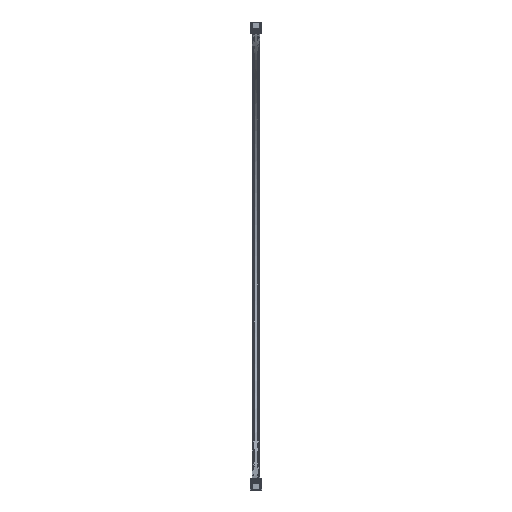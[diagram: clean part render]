
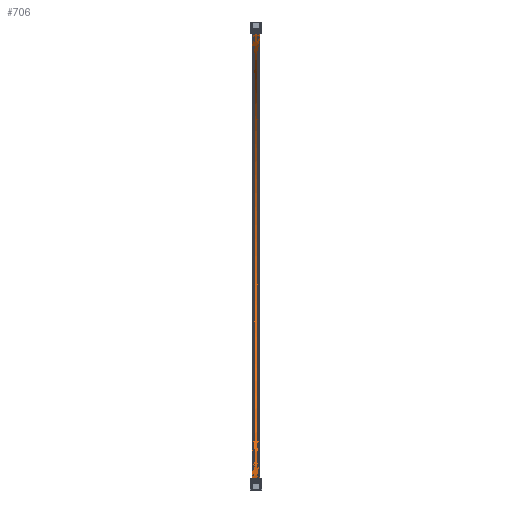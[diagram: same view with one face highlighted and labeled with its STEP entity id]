
A CAD part, front view. The second image highlights one B-rep face of the part: STEP entity #706.
In plain terms, the highlighted free-form (B-spline) face has degree [1, 2] with [2, 9] control points.
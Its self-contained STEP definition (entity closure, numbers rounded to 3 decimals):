
#706=ADVANCED_FACE('',(#1349),#9740,.T.);
#1349=FACE_OUTER_BOUND('',#2023,.T.);
#2023=EDGE_LOOP('',(#4747,#4748,#4749,#4750));
#4747=ORIENTED_EDGE('',*,*,#6426,.F.);
#4748=ORIENTED_EDGE('',*,*,#6535,.F.);
#4749=ORIENTED_EDGE('',*,*,#6536,.F.);
#4750=ORIENTED_EDGE('',*,*,#6534,.F.);
#6426=EDGE_CURVE('',#8990,#8988,#8058,.T.);
#6534=EDGE_CURVE('',#8988,#9053,#7362,.T.);
#6535=EDGE_CURVE('',#9054,#8990,#7363,.T.);
#6536=EDGE_CURVE('',#9053,#9054,#8120,.T.);
#7362=(
BOUNDED_CURVE()
B_SPLINE_CURVE(2,(#28778,#28779,#28780,#28781,#28782),.UNSPECIFIED.,.F.,
 .F.)
B_SPLINE_CURVE_WITH_KNOTS((3,2,3),(-2200.,-1100.,0.),.UNSPECIFIED.)
CURVE()
GEOMETRIC_REPRESENTATION_ITEM()
RATIONAL_B_SPLINE_CURVE((1.,0.707,1.,0.707,1.))
REPRESENTATION_ITEM('')
);
#7363=(
BOUNDED_CURVE()
B_SPLINE_CURVE(2,(#28783,#28784,#28785,#28786,#28787),.UNSPECIFIED.,.F.,
 .F.)
B_SPLINE_CURVE_WITH_KNOTS((3,2,3),(-2200.,-1100.,0.),.UNSPECIFIED.)
CURVE()
GEOMETRIC_REPRESENTATION_ITEM()
RATIONAL_B_SPLINE_CURVE((1.,0.707,1.,0.707,1.))
REPRESENTATION_ITEM('')
);
#8058=B_SPLINE_CURVE_WITH_KNOTS('',1,(#28462,#28463),.UNSPECIFIED.,.F.,
 .F.,(2,2),(0.,23.4),.UNSPECIFIED.);
#8120=B_SPLINE_CURVE_WITH_KNOTS('',1,(#28788,#28789),.UNSPECIFIED.,.F.,
 .F.,(2,2),(-23.4,0.),.UNSPECIFIED.);
#8988=VERTEX_POINT('',#28120);
#8990=VERTEX_POINT('',#28122);
#9053=VERTEX_POINT('',#28185);
#9054=VERTEX_POINT('',#28186);
#9740=(
BOUNDED_SURFACE()
B_SPLINE_SURFACE(1,2,((#26755,#26756,#26757,#26758,#26759,#26760,#26761,
#26762,#26763),(#26764,#26765,#26766,#26767,#26768,#26769,#26770,#26771,
#26772)),.UNSPECIFIED.,.F.,.F.,.F.)
B_SPLINE_SURFACE_WITH_KNOTS((2,2),(3,2,2,2,3),(0.,28.08),(0.,1100.,2200.,
3300.,4400.),.UNSPECIFIED.)
GEOMETRIC_REPRESENTATION_ITEM()
RATIONAL_B_SPLINE_SURFACE(((1.,0.707,1.,0.707,1.,
0.707,1.,0.707,1.),(1.,0.707,1.,0.707,
1.,0.707,1.,0.707,1.)))
REPRESENTATION_ITEM('')
SURFACE()
);
#26755=CARTESIAN_POINT('',(-14.04,-300.282,704.107));
#26756=CARTESIAN_POINT('',(-14.04,-300.282,3.825));
#26757=CARTESIAN_POINT('',(-14.04,400.,3.825));
#26758=CARTESIAN_POINT('',(-14.04,1100.282,3.825));
#26759=CARTESIAN_POINT('',(-14.04,1100.282,704.107));
#26760=CARTESIAN_POINT('',(-14.04,1100.282,1404.388));
#26761=CARTESIAN_POINT('',(-14.04,400.,1404.388));
#26762=CARTESIAN_POINT('',(-14.04,-300.282,1404.388));
#26763=CARTESIAN_POINT('',(-14.04,-300.282,704.107));
#26764=CARTESIAN_POINT('',(14.04,-300.282,704.107));
#26765=CARTESIAN_POINT('',(14.04,-300.282,3.825));
#26766=CARTESIAN_POINT('',(14.04,400.,3.825));
#26767=CARTESIAN_POINT('',(14.04,1100.282,3.825));
#26768=CARTESIAN_POINT('',(14.04,1100.282,704.107));
#26769=CARTESIAN_POINT('',(14.04,1100.282,1404.388));
#26770=CARTESIAN_POINT('',(14.04,400.,1404.388));
#26771=CARTESIAN_POINT('',(14.04,-300.282,1404.388));
#26772=CARTESIAN_POINT('',(14.04,-300.282,704.107));
#28120=CARTESIAN_POINT('',(11.7,400.,1404.388));
#28122=CARTESIAN_POINT('',(-11.7,400.,1404.388));
#28185=CARTESIAN_POINT('',(11.7,400.,3.825));
#28186=CARTESIAN_POINT('',(-11.7,400.,3.825));
#28462=CARTESIAN_POINT('',(-11.7,400.,1404.388));
#28463=CARTESIAN_POINT('',(11.7,400.,1404.388));
#28778=CARTESIAN_POINT('',(11.7,400.,1404.388));
#28779=CARTESIAN_POINT('',(11.7,1100.282,1404.388));
#28780=CARTESIAN_POINT('',(11.7,1100.282,704.107));
#28781=CARTESIAN_POINT('',(11.7,1100.282,3.825));
#28782=CARTESIAN_POINT('',(11.7,400.,3.825));
#28783=CARTESIAN_POINT('',(-11.7,400.,3.825));
#28784=CARTESIAN_POINT('',(-11.7,1100.282,3.825));
#28785=CARTESIAN_POINT('',(-11.7,1100.282,704.107));
#28786=CARTESIAN_POINT('',(-11.7,1100.282,1404.388));
#28787=CARTESIAN_POINT('',(-11.7,400.,1404.388));
#28788=CARTESIAN_POINT('',(11.7,400.,3.825));
#28789=CARTESIAN_POINT('',(-11.7,400.,3.825));
